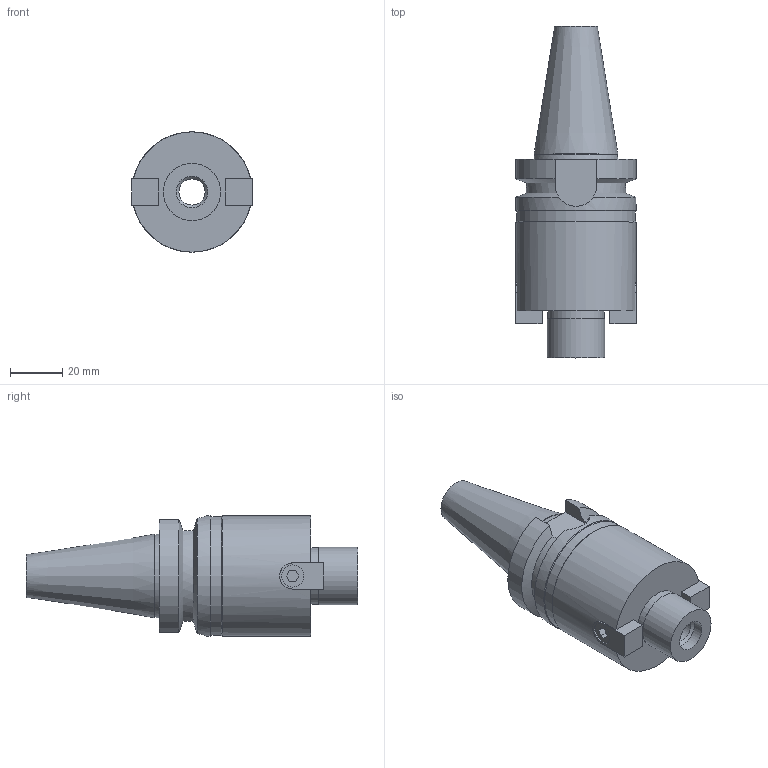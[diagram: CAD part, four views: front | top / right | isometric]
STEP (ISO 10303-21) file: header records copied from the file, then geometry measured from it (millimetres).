
FILE_DESCRIPTION(/* description */ (''),/* implementation_level */ '2;1');
FILE_NAME(/* name */ 'X:\Проектный отдел\Слава\STEP\BT30-FMB22-60.stp',/* time_stamp */ '2021-10-05T17:08:30+03:00',/* author */ ('Евгений'),/* organization */ (''),/* preprocessor_version */ 'ST-DEVELOPER v18',/* originating_system */ 'Autodesk Inventor 2020',/* authorisation */ '');
FILE_SCHEMA (('AUTOMOTIVE_DESIGN { 1 0 10303 214 3 1 1 }'));
Length unit declared in the file: millimetre
Products named in the file (1): BT30-FMB22-60
Bounding box: 46 x 127 x 46 mm (x, y, z)
Volume: 110526.3 mm3; surface area: 23429 mm2
Topology: 3 solids, 3 shells, 79 faces, 207 edges, 141 vertices
Faces by surface type: plane 47, cylinder 21, cone 11
Full cylindrical faces by diameter (mm): 8.5 x2, 10 x1, 12 x2, 14 x1, 21.5 x1, 22 x1, 45.5 x1, 46 x2
Entity records: 2619 total; most frequent: CARTESIAN_POINT 529, DIRECTION 422, ORIENTED_EDGE 414, EDGE_CURVE 207, AXIS2_PLACEMENT_3D 152, VERTEX_POINT 141, LINE 118, VECTOR 118
